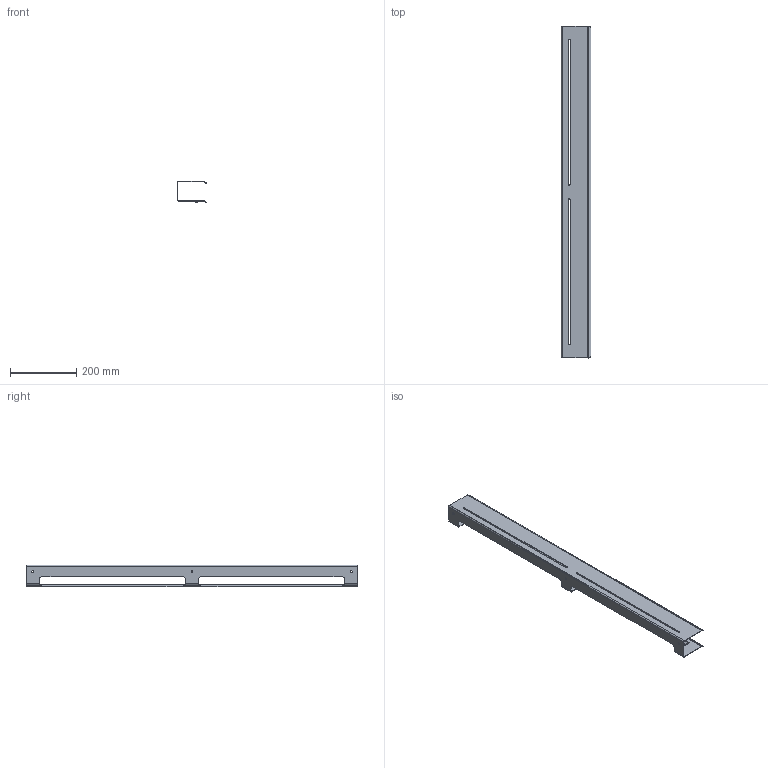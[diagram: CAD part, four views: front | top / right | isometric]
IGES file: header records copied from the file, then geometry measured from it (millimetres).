
Start section: IGES file generated by C3D Converter 1.5 translator by C3D Labs., translator version IGESOUT-5.1.
Global section: file name: D:\×åðòåæè èçäåëèé Âàííà 2023\Ïîëêè Simple Íîâûå\3D\×åðòåæè 22.07.2023\3D\S²MPLE_2LAYER_1000.igs; preprocessor: 1.0; author: a.kalenyk83@gmail.com; organization: unknown; date: -17770622:111701; units: millimetre
Bounding box: 88.5 x 1000 x 65.77 mm (x, y, z)
Volume: 242462.7 mm3; surface area: 332920.5 mm2
Topology: 1 solids, 1 shells, 108 faces, 266 edges, 156 vertices
Faces by surface type: bspline 66, revolution 42
